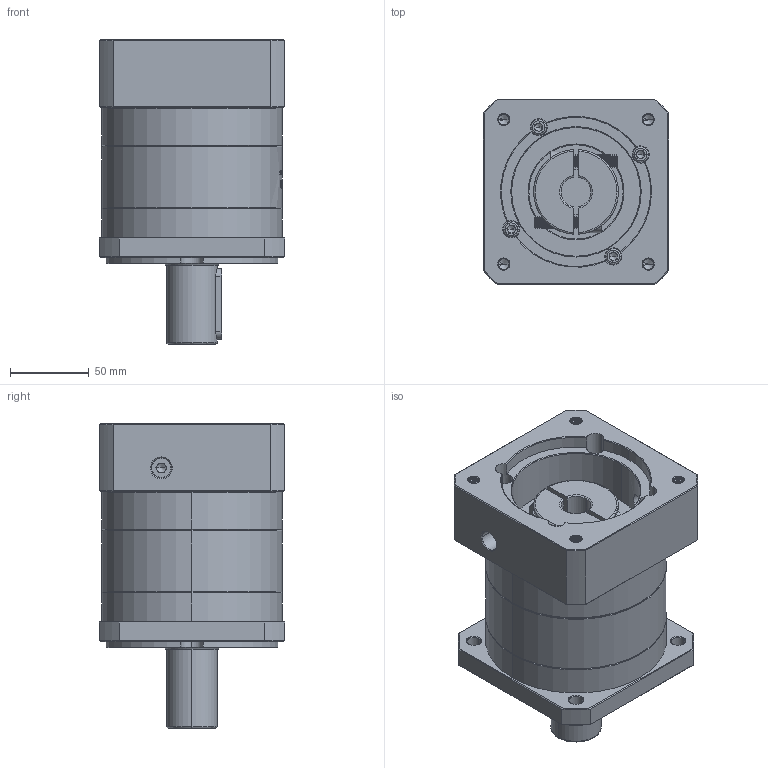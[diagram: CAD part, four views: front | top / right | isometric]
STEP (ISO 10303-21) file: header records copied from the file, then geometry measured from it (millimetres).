
FILE_DESCRIPTION (( 'STEP AP214' ), '1' );
FILE_NAME ('ZF120A-D32-L1-19-95-130-M8.step', '2023-03-07T09:32:17', ( '' ), ( '' ), 'SwSTEP 2.0', 'SolidWorks 2016', '' );
FILE_SCHEMA (( 'AUTOMOTIVE_DESIGN' ));
Length unit declared in the file: millimetre
Products named in the file (1): ZF120A-D32-L1-19-95-130-M8
Bounding box: 118 x 118 x 193.5 mm (x, y, z)
Volume: 1478278.3 mm3; surface area: 166700.2 mm2
Topology: 6 solids, 6 shells, 1951 faces, 5108 edges, 3251 vertices
Faces by surface type: plane 857, cylinder 425, cone 328, bspline 321, torus 20
Entity records: 107354 total; most frequent: CARTESIAN_POINT 41683, ORIENTED_EDGE 10156, DIRECTION 7880, EDGE_CURVE 5078, VERTEX_POINT 3251, VECTOR 2750, LINE 2750, AXIS2_PLACEMENT_3D 2565
